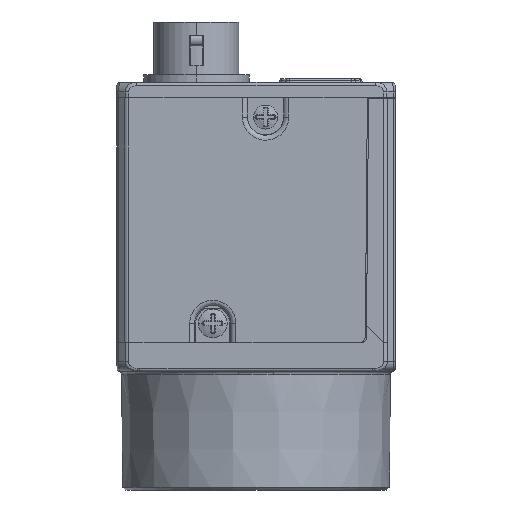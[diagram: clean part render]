
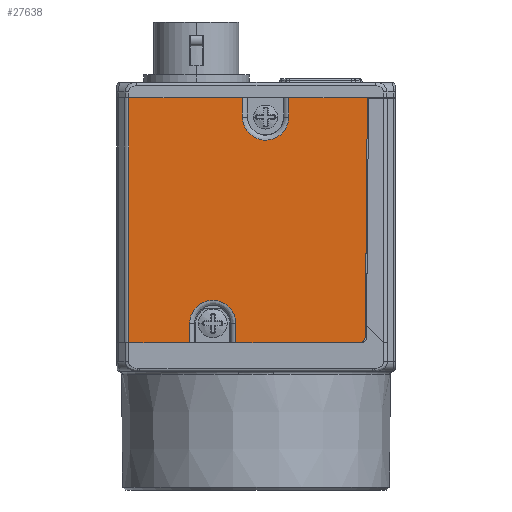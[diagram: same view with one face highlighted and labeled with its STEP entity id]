
A CAD part, left-side view. The second image highlights one B-rep face of the part: STEP entity #27638.
In plain terms, the highlighted planar face has unit normal (-1, 0, 0).
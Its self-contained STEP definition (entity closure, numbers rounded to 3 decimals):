
#1346=DIRECTION('',(0.,1.,0.));
#1347=VECTOR('',#1346,6.343);
#1348=CARTESIAN_POINT('',(-14.5,6.908,
-2.5));
#1349=LINE('',#1348,#1347);
#1350=CARTESIAN_POINT('',(-14.5,-1.,21.));
#1351=DIRECTION('',(-1.,0.,0.));
#1352=DIRECTION('',(0.,1.,0.));
#1353=AXIS2_PLACEMENT_3D('',#1350,#1351,#1352);
#1355=CARTESIAN_POINT('',(-14.5,-1.,21.));
#1356=DIRECTION('',(-1.,0.,0.));
#1357=DIRECTION('',(0.,0.993,-0.119));
#1358=AXIS2_PLACEMENT_3D('',#1355,#1356,#1357);
#1360=DIRECTION('',(0.,0.009,-1.));
#1361=VECTOR('',#1360,24.906);
#1362=CARTESIAN_POINT('',(-14.5,-11.6,
23.));
#1363=LINE('',#1362,#1361);
#1364=CARTESIAN_POINT('',(-14.5,-10.783,-1.9));
#1365=DIRECTION('',(1.,0.,0.));
#1366=DIRECTION('',(0.,-1.,-0.009));
#1367=AXIS2_PLACEMENT_3D('',#1364,#1365,#1366);
#1369=DIRECTION('',(0.,1.,0.));
#1370=VECTOR('',#1369,12.874);
#1371=CARTESIAN_POINT('',(-14.5,-10.783,
-2.5));
#1372=LINE('',#1371,#1370);
#1373=CARTESIAN_POINT('',(-14.5,4.5,-0.5));
#1374=DIRECTION('',(-1.,0.,0.));
#1375=DIRECTION('',(0.,-1.,0.));
#1376=AXIS2_PLACEMENT_3D('',#1373,#1374,#1375);
#1378=CARTESIAN_POINT('',(-14.5,4.5,-0.5));
#1379=DIRECTION('',(-1.,0.,0.));
#1380=DIRECTION('',(0.,-0.993,0.119));
#1381=AXIS2_PLACEMENT_3D('',#1378,#1379,#1380);
#1390=DIRECTION('',(0.,0.,-1.));
#1391=VECTOR('',#1390,25.5);
#1392=CARTESIAN_POINT('',(-14.5,13.251,23.));
#1393=LINE('',#1392,#1391);
#1534=DIRECTION('',(0.,1.,0.));
#1535=VECTOR('',#1534,11.843);
#1536=CARTESIAN_POINT('',(-14.5,1.408,23.));
#1537=LINE('',#1536,#1535);
#1602=DIRECTION('',(0.,1.,0.));
#1603=VECTOR('',#1602,8.192);
#1604=CARTESIAN_POINT('',(-14.5,-11.6,
23.));
#1605=LINE('',#1604,#1603);
#8018=DIRECTION('',(0.,0.,-1.));
#8019=VECTOR('',#8018,2.);
#8020=CARTESIAN_POINT('',(-14.5,-3.408,
23.));
#8021=LINE('',#8020,#8019);
#8036=DIRECTION('',(0.,0.,1.));
#8037=VECTOR('',#8036,2.);
#8038=CARTESIAN_POINT('',(-14.5,1.408,21.));
#8039=LINE('',#8038,#8037);
#8827=DIRECTION('',(0.,0.,-1.));
#8828=VECTOR('',#8827,2.);
#8829=CARTESIAN_POINT('',(-14.5,2.092,-0.5));
#8830=LINE('',#8829,#8828);
#8881=DIRECTION('',(0.,0.,1.));
#8882=VECTOR('',#8881,2.);
#8883=CARTESIAN_POINT('',(-14.5,6.908,
-2.5));
#8884=LINE('',#8883,#8882);
#21164=CARTESIAN_POINT('',(-14.5,6.908,
-2.5));
#21165=CARTESIAN_POINT('',(-14.5,13.251,
-2.5));
#21166=VERTEX_POINT('',#21164);
#21167=VERTEX_POINT('',#21165);
#21168=CARTESIAN_POINT('',(-14.5,1.408,21.));
#21169=CARTESIAN_POINT('',(-14.5,1.391,20.713));
#21170=VERTEX_POINT('',#21168);
#21171=VERTEX_POINT('',#21169);
#21172=CARTESIAN_POINT('',(-14.5,-3.408,21.));
#21173=VERTEX_POINT('',#21172);
#21174=CARTESIAN_POINT('',(-14.5,-11.6,
23.));
#21175=CARTESIAN_POINT('',(-14.5,-11.383,-1.905));
#21176=VERTEX_POINT('',#21174);
#21177=VERTEX_POINT('',#21175);
#21178=CARTESIAN_POINT('',(-14.5,-10.783,-2.5));
#21179=VERTEX_POINT('',#21178);
#21180=CARTESIAN_POINT('',(-14.5,2.092,
-2.5));
#21181=VERTEX_POINT('',#21180);
#21182=CARTESIAN_POINT('',(-14.5,2.092,-0.5));
#21183=CARTESIAN_POINT('',(-14.5,2.109,-0.213));
#21184=VERTEX_POINT('',#21182);
#21185=VERTEX_POINT('',#21183);
#21186=CARTESIAN_POINT('',(-14.5,6.908,-0.5));
#21187=VERTEX_POINT('',#21186);
#21189=CARTESIAN_POINT('',(-14.5,13.251,
23.));
#21190=VERTEX_POINT('',#21189);
#21209=CARTESIAN_POINT('',(-14.5,1.408,
23.));
#21210=VERTEX_POINT('',#21209);
#21215=CARTESIAN_POINT('',(-14.5,-3.408,
23.));
#21216=VERTEX_POINT('',#21215);
#27603=CARTESIAN_POINT('',(-14.5,0.826,10.25));
#27604=DIRECTION('',(1.,0.,0.));
#27605=DIRECTION('',(0.,-1.,0.));
#27606=AXIS2_PLACEMENT_3D('',#27603,#27604,#27605);
#27607=PLANE('',#27606);
#27608=ORIENTED_EDGE('',*,*,#27571,.T.);
#27610=ORIENTED_EDGE('',*,*,#27609,.F.);
#27612=ORIENTED_EDGE('',*,*,#27611,.F.);
#27614=ORIENTED_EDGE('',*,*,#27613,.F.);
#27616=ORIENTED_EDGE('',*,*,#27615,.T.);
#27618=ORIENTED_EDGE('',*,*,#27617,.T.);
#27620=ORIENTED_EDGE('',*,*,#27619,.F.);
#27622=ORIENTED_EDGE('',*,*,#27621,.F.);
#27624=ORIENTED_EDGE('',*,*,#27623,.T.);
#27626=ORIENTED_EDGE('',*,*,#27625,.T.);
#27627=ORIENTED_EDGE('',*,*,#27575,.T.);
#27629=ORIENTED_EDGE('',*,*,#27628,.F.);
#27631=ORIENTED_EDGE('',*,*,#27630,.T.);
#27633=ORIENTED_EDGE('',*,*,#27632,.T.);
#27635=ORIENTED_EDGE('',*,*,#27634,.F.);
#27636=EDGE_LOOP('',(#27608,#27610,#27612,#27614,#27616,#27618,#27620,#27622,
#27624,#27626,#27627,#27629,#27631,#27633,#27635));
#27637=FACE_OUTER_BOUND('',#27636,.F.);
#27638=ADVANCED_FACE('',(#27637),#27607,.F.);
#1354=CIRCLE('',#1353,2.408);
#1359=CIRCLE('',#1358,2.408);
#1368=CIRCLE('',#1367,0.6);
#1377=CIRCLE('',#1376,2.408);
#1382=CIRCLE('',#1381,2.408);
#27571=EDGE_CURVE('',#21166,#21167,#1349,.T.);
#27575=EDGE_CURVE('',#21179,#21181,#1372,.T.);
#27609=EDGE_CURVE('',#21190,#21167,#1393,.T.);
#27611=EDGE_CURVE('',#21210,#21190,#1537,.T.);
#27613=EDGE_CURVE('',#21170,#21210,#8039,.T.);
#27615=EDGE_CURVE('',#21170,#21171,#1354,.T.);
#27617=EDGE_CURVE('',#21171,#21173,#1359,.T.);
#27619=EDGE_CURVE('',#21216,#21173,#8021,.T.);
#27621=EDGE_CURVE('',#21176,#21216,#1605,.T.);
#27623=EDGE_CURVE('',#21176,#21177,#1363,.T.);
#27625=EDGE_CURVE('',#21177,#21179,#1368,.T.);
#27628=EDGE_CURVE('',#21184,#21181,#8830,.T.);
#27630=EDGE_CURVE('',#21184,#21185,#1377,.T.);
#27632=EDGE_CURVE('',#21185,#21187,#1382,.T.);
#27634=EDGE_CURVE('',#21166,#21187,#8884,.T.);
